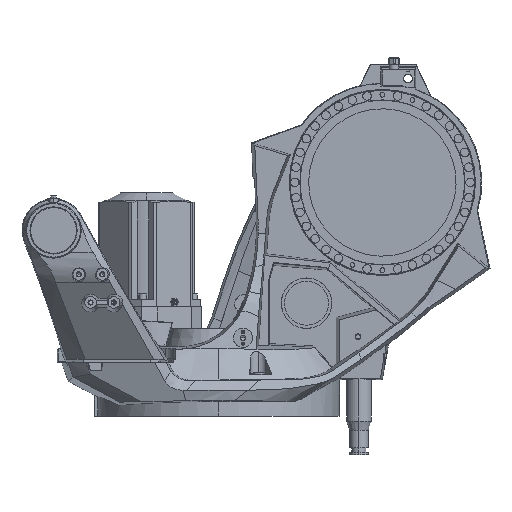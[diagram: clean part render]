
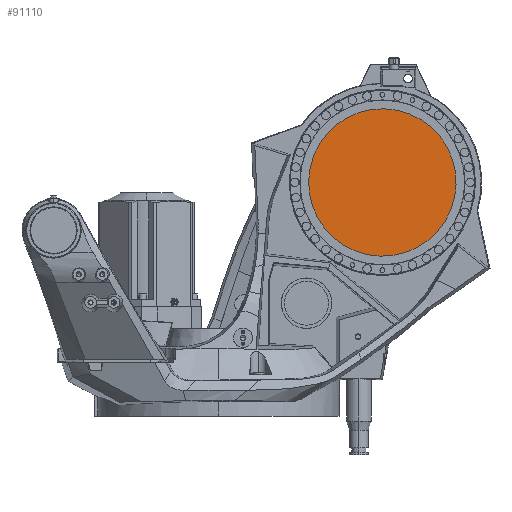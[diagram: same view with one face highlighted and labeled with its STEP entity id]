
A CAD part, front view. The second image highlights one B-rep face of the part: STEP entity #91110.
In plain terms, the highlighted planar face has unit normal (0, -1, 0).
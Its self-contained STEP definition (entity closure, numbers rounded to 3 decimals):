
#1508 = CARTESIAN_POINT ( 'NONE',  ( 408.235, -137., 926.338 ) ) ;
#4940 = CARTESIAN_POINT ( 'NONE',  ( 350., -137., 780. ) ) ;
#10500 = CARTESIAN_POINT ( 'NONE',  ( 316.509, -137., 695.842 ) ) ;
#12964 = VERTEX_POINT ( 'NONE', #1508 ) ;
#13526 = AXIS2_PLACEMENT_3D ( 'NONE', #67891, #52803, #61181 ) ;
#21006 = AXIS2_PLACEMENT_3D ( 'NONE', #10500, #68914, #104162 ) ;
#26020 = CIRCLE ( 'NONE', #13526, 157.5 ) ;
#33183 = EDGE_CURVE ( 'NONE', #40382, #12964, #26020, .T. ) ;
#34714 = PLANE ( 'NONE',  #21006 ) ;
#35290 = CARTESIAN_POINT ( 'NONE',  ( 291.765, -137., 633.662 ) ) ;
#37485 = AXIS2_PLACEMENT_3D ( 'NONE', #4940, #83576, #74595 ) ;
#40382 = VERTEX_POINT ( 'NONE', #35290 ) ;
#52803 = DIRECTION ( 'NONE',  ( 0., -1., 0. ) ) ;
#55843 = EDGE_LOOP ( 'NONE', ( #80451, #96556 ) ) ;
#59960 = FACE_OUTER_BOUND ( 'NONE', #55843, .T. ) ;
#61181 = DIRECTION ( 'NONE',  ( -0.174, 0., -0.985 ) ) ;
#67891 = CARTESIAN_POINT ( 'NONE',  ( 350., -137., 780. ) ) ;
#68914 = DIRECTION ( 'NONE',  ( 0., 1., 0. ) ) ;
#73263 = CIRCLE ( 'NONE', #37485, 157.5 ) ;
#74595 = DIRECTION ( 'NONE',  ( -0.174, 0., -0.985 ) ) ;
#80451 = ORIENTED_EDGE ( 'NONE', *, *, #92744, .T. ) ;
#83576 = DIRECTION ( 'NONE',  ( 0., -1., 0. ) ) ;
#91110 = ADVANCED_FACE ( 'NONE', ( #59960 ), #34714, .F. ) ;
#92744 = EDGE_CURVE ( 'NONE', #12964, #40382, #73263, .T. ) ;
#96556 = ORIENTED_EDGE ( 'NONE', *, *, #33183, .T. ) ;
#104162 = DIRECTION ( 'NONE',  ( 0.37, 0., 0.929 ) ) ;
